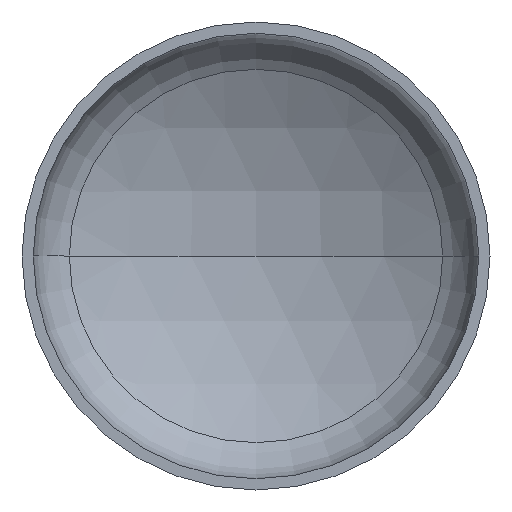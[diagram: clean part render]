
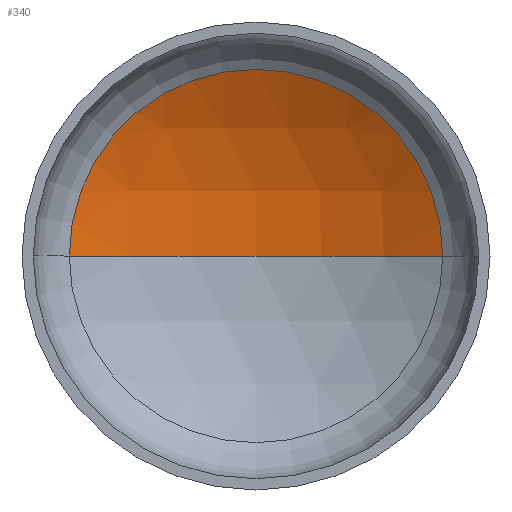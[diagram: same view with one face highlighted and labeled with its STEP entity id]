
A CAD part, front view. The second image highlights one B-rep face of the part: STEP entity #340.
In plain terms, the highlighted spherical face has radius 3200 mm.
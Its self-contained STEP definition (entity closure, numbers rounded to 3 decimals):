
#2 = AXIS2_PLACEMENT_3D ( 'NONE', #144, #140, #104 ) ;
#5 = DIRECTION ( 'NONE',  ( 1., 0., 0. ) ) ;
#21 = AXIS2_PLACEMENT_3D ( 'NONE', #314, #151, #5 ) ;
#24 = AXIS2_PLACEMENT_3D ( 'NONE', #203, #183, #184 ) ;
#27 = AXIS2_PLACEMENT_3D ( 'NONE', #214, #210, #211 ) ;
#28 = EDGE_LOOP ( 'NONE', ( #129, #79, #123 ) ) ;
#57 = VERTEX_POINT ( 'NONE', #217 ) ;
#67 = EDGE_CURVE ( 'NONE', #57, #100, #344, .T. ) ;
#69 = EDGE_CURVE ( 'NONE', #171, #57, #275, .T. ) ;
#79 = ORIENTED_EDGE ( 'NONE', *, *, #69, .T. ) ;
#83 = EDGE_CURVE ( 'NONE', #171, #100, #213, .T. ) ;
#100 = VERTEX_POINT ( 'NONE', #362 ) ;
#104 = DIRECTION ( 'NONE',  ( -1., 0., 0. ) ) ;
#123 = ORIENTED_EDGE ( 'NONE', *, *, #67, .T. ) ;
#129 = ORIENTED_EDGE ( 'NONE', *, *, #83, .F. ) ;
#140 = DIRECTION ( 'NONE',  ( 0., 0., -1. ) ) ;
#144 = CARTESIAN_POINT ( 'NONE',  ( 0., -2140.693, 0. ) ) ;
#151 = DIRECTION ( 'NONE',  ( 0., 0., 1. ) ) ;
#171 = VERTEX_POINT ( 'NONE', #249 ) ;
#183 = DIRECTION ( 'NONE',  ( 0., 0., -1. ) ) ;
#184 = DIRECTION ( 'NONE',  ( -1., 0., 0. ) ) ;
#203 = CARTESIAN_POINT ( 'NONE',  ( 0., -2140.693, 0. ) ) ;
#210 = DIRECTION ( 'NONE',  ( 0., -1., 0. ) ) ;
#211 = DIRECTION ( 'NONE',  ( 1., 0., 0. ) ) ;
#213 = CIRCLE ( 'NONE', #21, 3200. ) ;
#214 = CARTESIAN_POINT ( 'NONE',  ( 0., 633.086, 0. ) ) ;
#217 = CARTESIAN_POINT ( 'NONE',  ( 1595.667, 633.086, 0. ) ) ;
#249 = CARTESIAN_POINT ( 'NONE',  ( 0., 1059.307, 0. ) ) ;
#251 = FACE_OUTER_BOUND ( 'NONE', #28, .T. ) ;
#275 = CIRCLE ( 'NONE', #24, 3200. ) ;
#304 = SPHERICAL_SURFACE ( 'NONE', #2, 3200. ) ;
#314 = CARTESIAN_POINT ( 'NONE',  ( 0., -2140.693, 0. ) ) ;
#340 = ADVANCED_FACE ( 'NONE', ( #251 ), #304, .F. ) ;
#344 = CIRCLE ( 'NONE', #27, 1595.667 ) ;
#362 = CARTESIAN_POINT ( 'NONE',  ( -1595.667, 633.086, 0. ) ) ;
